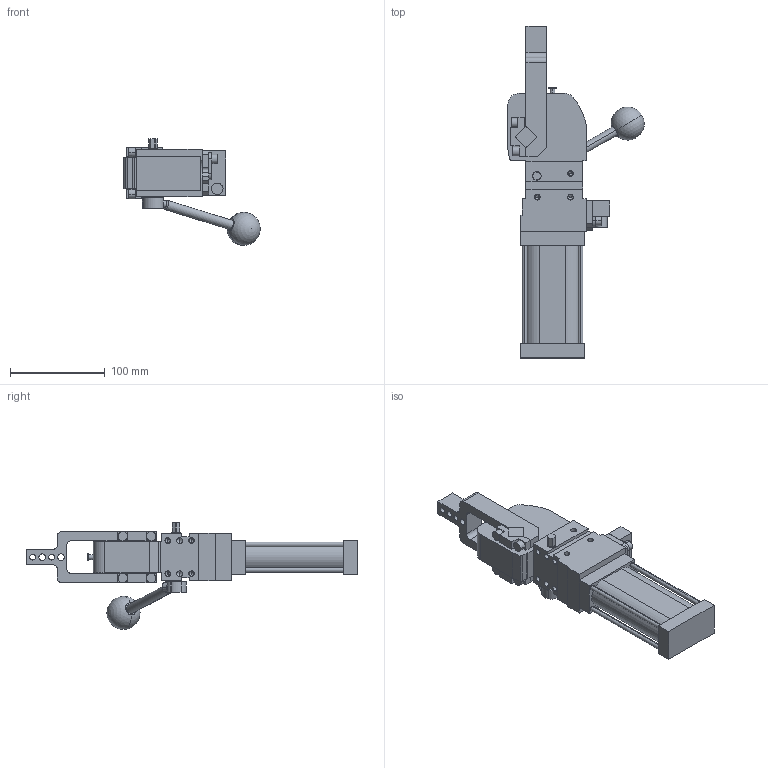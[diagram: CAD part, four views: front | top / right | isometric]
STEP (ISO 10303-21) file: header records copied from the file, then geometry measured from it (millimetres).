
FILE_DESCRIPTION (( 'STEP AP214' ), '1' );
FILE_NAME ('cplm40lbh2csi1g_91.STEP', '2021-05-25T12:35:48', ( '' ), ( '' ), 'SwSTEP 2.0', 'SolidWorks 2021', '' );
FILE_SCHEMA (( 'AUTOMOTIVE_DESIGN' ));
Length unit declared in the file: millimetre
Products named in the file (6): leva_v2c_cpl40; piastra_blocchetto_cpl40; blocchetto_VEP_0_cpl40; meccanica_cplm40; cplm40lbh2csi1g_91; comando_manuale_cplm_40
Assembly tree (5 placements, depth 2):
  cplm40lbh2csi1g_91
    meccanica_cplm40
    leva_v2c_cpl40
    blocchetto_VEP_0_cpl40
    piastra_blocchetto_cpl40
    comando_manuale_cplm_40
Bounding box: 143.62 x 350 x 112.66 mm (x, y, z)
Volume: 798457.2 mm3; surface area: 124552.8 mm2
Topology: 6 solids, 6 shells, 458 faces, 1174 edges, 739 vertices
Faces by surface type: plane 255, cylinder 155, cone 46, sphere 2
Entity records: 15210 total; most frequent: CARTESIAN_POINT 2447, DIRECTION 2421, ORIENTED_EDGE 2254, EDGE_CURVE 1127, AXIS2_PLACEMENT_3D 832, LINE 757, VECTOR 757, VERTEX_POINT 736
